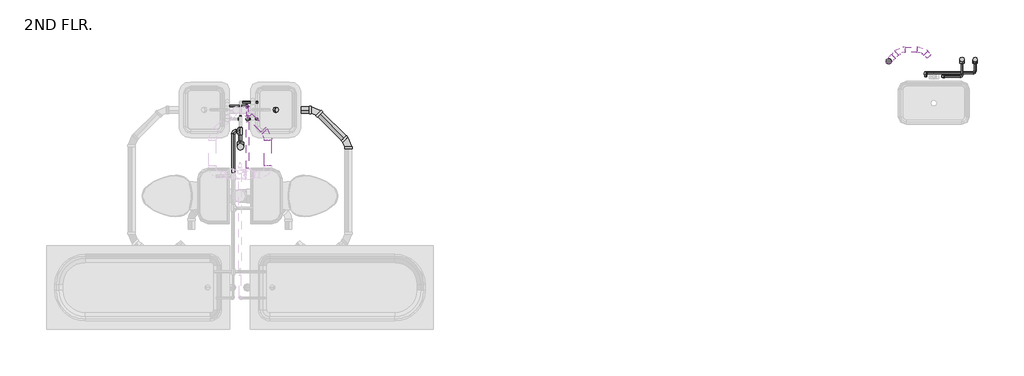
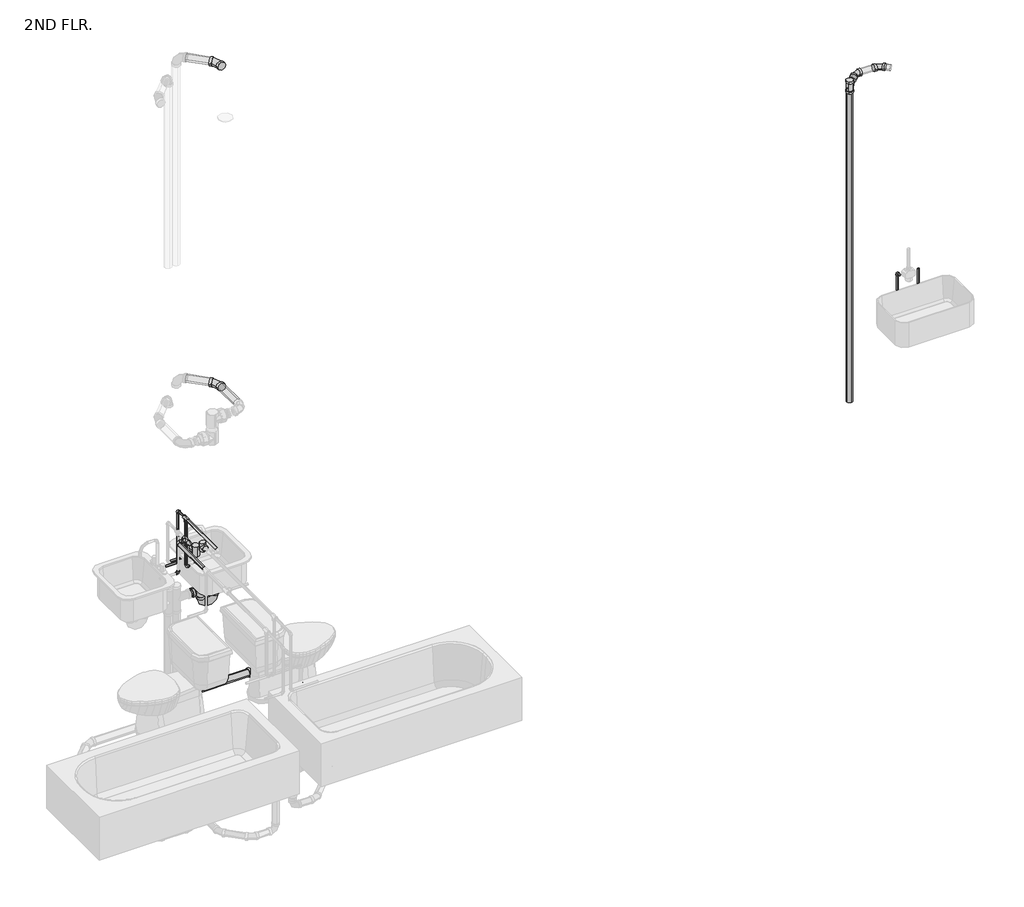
# One storey, part 15 of 15: 32 pipe fittings, 30 pipe segments.
"""IFC4 building model written with IfcOpenShell, lengths in millimetres."""

from ifc_helpers import new_model, si_unit, point, frame, frame_2d, origin, place, context, project, spatial, circle_curve, trimmed, segment, composite_curve, outline, extrude, transform, mapped, element, save
from components import bend_pvc_sch_40_dwv_standard_e59a9f3a, bend_pvc_sch_40_dwv_standard_9b1ab2e2, bend_pvc_sch_40_dwv_standard_f2f5988a, pipe_elbow_copper_k_aad62f2d, pipe_elbow_copper_k_a25a5501, pipe_elbow_copper_k_69a8f9be, pipe_tee_copper_k_36278b8a, pipe_tee_copper_k_7127fd44, pipe_tee_copper_k_ee363fbf, pipe_tee_copper_k_feafe2f1, pipe_tee_copper_k_60c871d1, pipe_transition_copper_k_859ff352, pipe_transition_copper_k_b4f16853, pipe_transition_copper_k_5cd7eb3f, pipe_transition_copper_k_4b29cc47, standard_73d07651, tee_sanitary_pvc_sch_40_dwv_standard_be04015c

model = new_model("IFC4")

# Units and contexts
model_context = context("Model", 3, world=origin())
ifc_project = project(units=[si_unit("LENGTHUNIT", "METRE", prefix="MILLI")], contexts=[model_context])

# Site, building, storey
site = spatial("IfcSite", under=ifc_project)
building = spatial("IfcBuilding", under=site)
storey = spatial("IfcBuildingStorey", under=building, Name="2ND FLR.", Elevation=2844.8)

# Pipe fittings
placement = place(None, origin())
bend_pvc_sch_40_dwv_standard_shape = bend_pvc_sch_40_dwv_standard_e59a9f3a(model_context)
element("IfcPipeFitting", 1, ObjectType="Bend - PVC - Sch 40 - DWV : Standard", at=placement, inside=storey, context=model_context, shape_type="MappedRepresentation", body=[
    mapped(bend_pvc_sch_40_dwv_standard_shape, transform((23184.9534568, 9017.693639, 5528.5325529), x_axis=(-0.7070684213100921, 0.7071067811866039, 0.007365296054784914), y_axis=(-0.7070684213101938, -0.7071067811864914, 0.007365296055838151), z_axis=(0.010416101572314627, 0.0, 0.9999457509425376))),
])
bend_pvc_sch_40_dwv_standard_2_shape = bend_pvc_sch_40_dwv_standard_9b1ab2e2(model_context)
element("IfcPipeFitting", 2, ObjectType="Bend - PVC - Sch 40 - DWV : Standard", at=placement, inside=storey, context=model_context, shape_type="MappedRepresentation", body=[
    mapped(bend_pvc_sch_40_dwv_standard_2_shape, transform((22984.0760534, 9017.6936646, 5530.6309152), x_axis=(-0.9999457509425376, 0.0, 0.010416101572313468), y_axis=(4.542044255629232e-05, -0.9999904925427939, 0.004360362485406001), z_axis=(0.010416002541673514, 0.004360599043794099, 0.9999362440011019))),
])
bend_pvc_sch_40_dwv_standard_3_shape = bend_pvc_sch_40_dwv_standard_f2f5988a(model_context)
element("IfcPipeFitting", 3, ObjectType="Bend - PVC - Sch 40 - DWV : Standard", at=placement, inside=storey, context=model_context, shape_type="MappedRepresentation", body=[
    mapped(bend_pvc_sch_40_dwv_standard_3_shape, transform((17633.9937605, 8465.2676718, 2448.8904025), x_axis=(-0.707106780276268, 0.7071067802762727, 5.0741035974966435e-05), y_axis=(-0.7071067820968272, -0.7071067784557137, -5.074103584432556e-05), z_axis=(0.0, -7.17586611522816e-05, 0.9999999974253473))),
])
element("IfcPipeFitting", 4, ObjectType="Bend - PVC - Sch 40 - DWV : Standard", at=placement, inside=storey, context=model_context, shape_type="MappedRepresentation", body=[
    mapped(bend_pvc_sch_40_dwv_standard_3_shape, transform((17932.9116861, 8166.3497461, 2448.8689525), x_axis=(0.0, 1.0, 0.0), y_axis=(-0.9999999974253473, 0.0, 7.175866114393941e-05), z_axis=(7.175866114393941e-05, 0.0, 0.9999999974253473))),
])
element("IfcPipeFitting", 5, ObjectType="Bend - PVC - Sch 40 - DWV : Standard", at=placement, inside=storey, context=model_context, shape_type="MappedRepresentation", body=[
    mapped(bend_pvc_sch_40_dwv_standard_3_shape, transform((17196.3084875, 8244.3974343, 8127.995709), x_axis=(0.0, 0.9999999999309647, -1.1750347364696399e-05), y_axis=(-0.9999999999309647, 1.3807066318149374e-10, 1.175034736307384e-05), z_axis=(1.1750347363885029e-05, 1.175034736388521e-05, 0.9999999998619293))),
])
element("IfcPipeFitting", 6, ObjectType="Bend - PVC - Sch 40 - DWV : Standard", at=placement, inside=storey, context=model_context, shape_type="MappedRepresentation", body=[
    mapped(bend_pvc_sch_40_dwv_standard_3_shape, transform((17196.3084875, 8244.3974343, 5283.195709), x_axis=(0.0, 0.9999999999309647, -1.1750347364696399e-05), y_axis=(-0.9999999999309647, 1.3807066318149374e-10, 1.175034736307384e-05), z_axis=(1.1750347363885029e-05, 1.175034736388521e-05, 0.9999999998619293))),
])
pipe_elbow_copper_k_shape = pipe_elbow_copper_k_aad62f2d(model_context)
element("IfcPipeFitting", 7, ObjectType="Pipe Elbow : Copper- K", at=placement, inside=storey, context=model_context, shape_type="MappedRepresentation", body=[
    mapped(pipe_elbow_copper_k_shape, transform((16945.8834875, 8383.3740436, 3606.8), x_axis=(0.0, 0.0, -1.0), y_axis=(-1.0, 0.0, 0.0), z_axis=(0.0, 1.0, 0.0))),
])
element("IfcPipeFitting", 8, ObjectType="Pipe Elbow : Copper- K", at=placement, inside=storey, context=model_context, shape_type="MappedRepresentation", body=[
    mapped(pipe_elbow_copper_k_shape, transform((17010.9709875, 8501.0968309, 4064.0), x_axis=(0.0, 1.0, 0.0), y_axis=(0.0, 0.0, -1.0), z_axis=(-1.0, 0.0, 0.0))),
])
element("IfcPipeFitting", 9, ObjectType="Pipe Elbow : Copper- K", at=placement, inside=storey, context=model_context, shape_type="MappedRepresentation", body=[
    mapped(pipe_elbow_copper_k_shape, transform((17010.9709875, 8501.0968309, 3606.8), x_axis=(0.0, 0.0, -1.0), y_axis=(-1.0, 0.0, 0.0), z_axis=(0.0, 1.0, 0.0))),
])
element("IfcPipeFitting", 10, ObjectType="Pipe Elbow : Copper- K", at=placement, inside=storey, context=model_context, shape_type="MappedRepresentation", body=[
    mapped(pipe_elbow_copper_k_shape, transform((17010.9709875, 8383.3740436, 3637.2601563), x_axis=(0.0, 0.0, -1.0), y_axis=(1.0, 0.0, 0.0), z_axis=(0.0, -1.0, 0.0))),
])
element("IfcPipeFitting", 11, ObjectType="Pipe Elbow : Copper- K", at=placement, inside=storey, context=model_context, shape_type="MappedRepresentation", body=[
    mapped(pipe_elbow_copper_k_shape, transform((23373.3163377, 8774.1278432, 3418.8796883), x_axis=(0.0, 0.0, -1.0), y_axis=(1.0, 0.0, 0.0), z_axis=(0.0, -1.0, 0.0))),
])
element("IfcPipeFitting", 12, ObjectType="Pipe Elbow : Copper- K", at=placement, inside=storey, context=model_context, shape_type="MappedRepresentation", body=[
    mapped(pipe_elbow_copper_k_shape, transform((23548.6084875, 8774.1278432, 3418.8796883), x_axis=(1.0, 0.0, 0.0), y_axis=(0.0, 1.0, 0.0), z_axis=(0.0, 0.0, 1.0))),
])
element("IfcPipeFitting", 13, ObjectType="Pipe Elbow : Copper- K", at=placement, inside=storey, context=model_context, shape_type="MappedRepresentation", body=[
    mapped(pipe_elbow_copper_k_shape, transform((23216.0641516, 8806.2157662, 3307.0601563), x_axis=(0.0, 0.0, -1.0), y_axis=(1.0, 0.0, 0.0), z_axis=(0.0, -1.0, 0.0))),
])
element("IfcPipeFitting", 14, ObjectType="Pipe Elbow : Copper- K", at=placement, inside=storey, context=model_context, shape_type="MappedRepresentation", body=[
    mapped(pipe_elbow_copper_k_shape, transform((23669.3410297, 8806.2157662, 3307.0601562), x_axis=(1.0, 0.0, 0.0), y_axis=(0.0, 1.0, 0.0), z_axis=(0.0, 0.0, 1.0))),
])
pipe_elbow_copper_k_2_shape = pipe_elbow_copper_k_a25a5501(model_context)
element("IfcPipeFitting", 15, ObjectType="Pipe Elbow : Copper- K", at=placement, inside=storey, context=model_context, shape_type="MappedRepresentation", body=[
    mapped(pipe_elbow_copper_k_2_shape, transform((16879.2084875, 8271.1092908, 3962.4), x_axis=(-1.0, 0.0, 0.0), y_axis=(0.0, -1.0, 0.0), z_axis=(0.0, 0.0, 1.0))),
])
pipe_elbow_copper_k_3_shape = pipe_elbow_copper_k_69a8f9be(model_context)
element("IfcPipeFitting", 16, ObjectType="Pipe Elbow : Copper- K", at=placement, inside=storey, context=model_context, shape_type="MappedRepresentation", body=[
    mapped(pipe_elbow_copper_k_3_shape, transform((23216.0641516, 8806.2157662, 3815.0601562), x_axis=(0.0, 0.0, 1.0), y_axis=(0.0, 1.0, 0.0), z_axis=(-1.0, 0.0, 0.0))),
])
pipe_tee_copper_k_shape = pipe_tee_copper_k_36278b8a(model_context)
element("IfcPipeFitting", 17, ObjectType="Pipe Tee : Copper- K", at=placement, inside=storey, context=model_context, shape_type="MappedRepresentation", body=[
    mapped(pipe_tee_copper_k_shape, transform((16945.8834875, 8129.4757881, 3962.4), x_axis=(0.0, 0.0, 1.0), y_axis=(0.0, -1.0, 0.0), z_axis=(1.0, 0.0, 0.0))),
])
pipe_tee_copper_k_2_shape = pipe_tee_copper_k_7127fd44(model_context)
element("IfcPipeFitting", 18, ObjectType="Pipe Tee : Copper- K", at=placement, inside=storey, context=model_context, shape_type="MappedRepresentation", body=[
    mapped(pipe_tee_copper_k_2_shape, transform((16941.9084875, 8021.1606631, 4064.0), x_axis=(0.0, 0.0, 1.0), y_axis=(-0.012699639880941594, 0.9999193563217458, 0.0), z_axis=(-0.9999193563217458, -0.012699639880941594, 0.0))),
])
pipe_tee_copper_k_3_shape = pipe_tee_copper_k_ee363fbf(model_context)
element("IfcPipeFitting", 19, ObjectType="Pipe Tee : Copper- K", at=placement, inside=storey, context=model_context, shape_type="MappedRepresentation", body=[
    mapped(pipe_tee_copper_k_3_shape, transform((17010.9709875, 8383.3740436, 4064.0), x_axis=(0.0, -1.0, 0.0), y_axis=(0.0, 0.0, 1.0), z_axis=(-1.0, 0.0, 0.0))),
])
pipe_tee_copper_k_4_shape = pipe_tee_copper_k_feafe2f1(model_context)
element("IfcPipeFitting", 20, ObjectType="Pipe Tee : Copper- K", at=placement, inside=storey, context=model_context, shape_type="MappedRepresentation", body=[
    mapped(pipe_tee_copper_k_4_shape, transform((16945.8834875, 8271.1092908, 3962.4), x_axis=(0.0, -1.0, 0.0), y_axis=(1.0, 0.0, 0.0), z_axis=(0.0, 0.0, 1.0))),
])
pipe_tee_copper_k_5_shape = pipe_tee_copper_k_60c871d1(model_context)
element("IfcPipeFitting", 21, ObjectType="Pipe Tee : Copper- K", at=placement, inside=storey, context=model_context, shape_type="MappedRepresentation", body=[
    mapped(pipe_tee_copper_k_5_shape, transform((23548.6084875, 8927.8175381, 3418.8796883), x_axis=(0.0, 0.0, 1.0), y_axis=(0.0, 1.0, 0.0), z_axis=(-1.0, 0.0, 0.0))),
])
element("IfcPipeFitting", 22, ObjectType="Pipe Tee : Copper- K", at=placement, inside=storey, context=model_context, shape_type="MappedRepresentation", body=[
    mapped(pipe_tee_copper_k_5_shape, transform((23669.3410297, 8927.8175381, 3307.0601562), x_axis=(0.0, 0.0, 1.0), y_axis=(0.0, 1.0, 0.0), z_axis=(-1.0, 0.0, 0.0))),
])
pipe_transition_copper_k_shape = pipe_transition_copper_k_859ff352(model_context)
element("IfcPipeFitting", 23, ObjectType="Pipe Transition : Copper- K", at=placement, inside=storey, context=model_context, shape_type="MappedRepresentation", body=[
    mapped(pipe_transition_copper_k_shape, transform((16945.8834875, 8383.3740436, 3935.4125), x_axis=(0.0, 0.0, -1.0), y_axis=(0.0, -1.0, 0.0), z_axis=(-1.0, 0.0, 0.0))),
])
element("IfcPipeFitting", 24, ObjectType="Pipe Transition : Copper- K", at=placement, inside=storey, context=model_context, shape_type="MappedRepresentation", body=[
    mapped(pipe_transition_copper_k_shape, transform((16945.8834875, 8410.3615436, 3962.4), x_axis=(0.0, 1.0, 0.0), y_axis=(-1.0, 0.0, 0.0), z_axis=(0.0, 0.0, 1.0))),
])
element("IfcPipeFitting", 25, ObjectType="Pipe Transition : Copper- K", at=placement, inside=storey, context=model_context, shape_type="MappedRepresentation", body=[
    mapped(pipe_transition_copper_k_shape, transform((17010.9709875, 8383.3740436, 4037.0125), x_axis=(0.0, 0.0, -1.0), y_axis=(0.0, 1.0, 0.0), z_axis=(1.0, 0.0, 0.0))),
])
element("IfcPipeFitting", 26, ObjectType="Pipe Transition : Copper- K", at=placement, inside=storey, context=model_context, shape_type="MappedRepresentation", body=[
    mapped(pipe_transition_copper_k_shape, transform((17010.9709875, 8410.3615436, 4064.0), x_axis=(0.0, 1.0, 0.0), y_axis=(-1.0, 0.0, 0.0), z_axis=(0.0, 0.0, 1.0))),
])
pipe_transition_copper_k_2_shape = pipe_transition_copper_k_b4f16853(model_context)
element("IfcPipeFitting", 27, ObjectType="Pipe Transition : Copper- K", at=placement, inside=storey, context=model_context, shape_type="MappedRepresentation", body=[
    mapped(pipe_transition_copper_k_2_shape, transform((16945.8834875, 8301.2717908, 3962.4), x_axis=(0.0, 1.0, 0.0), y_axis=(-1.0, 0.0, 0.0), z_axis=(0.0, 0.0, 1.0))),
])
pipe_transition_copper_k_3_shape = pipe_transition_copper_k_5cd7eb3f(model_context)
element("IfcPipeFitting", 28, ObjectType="Pipe Transition : Copper- K", at=placement, inside=storey, context=model_context, shape_type="MappedRepresentation", body=[
    mapped(pipe_transition_copper_k_3_shape, transform((16945.8834875, 8172.3382881, 3962.4), x_axis=(0.0, 1.0, 0.0), y_axis=(-1.0, 0.0, 0.0), z_axis=(0.0, 0.0, 1.0))),
])
pipe_transition_copper_k_4_shape = pipe_transition_copper_k_4b29cc47(model_context)
element("IfcPipeFitting", 29, ObjectType="Pipe Transition : Copper- K", at=placement, inside=storey, context=model_context, shape_type="MappedRepresentation", body=[
    mapped(pipe_transition_copper_k_4_shape, transform((23548.6084875, 8894.4800381, 3418.8796883), x_axis=(0.0, -1.0, 0.0), y_axis=(1.0, 0.0, 0.0), z_axis=(0.0, 0.0, 1.0))),
])
element("IfcPipeFitting", 30, ObjectType="Pipe Transition : Copper- K", at=placement, inside=storey, context=model_context, shape_type="MappedRepresentation", body=[
    mapped(pipe_transition_copper_k_4_shape, transform((23669.3410297, 8894.4800381, 3307.0601562), x_axis=(0.0, -1.0, 0.0), y_axis=(1.0, 0.0, 0.0), z_axis=(0.0, 0.0, 1.0))),
])
standard_shape = standard_73d07651(model_context)
element("IfcPipeFitting", 31, ObjectType="GES P TRAP PVC Sch 40 - DWV : Standard", at=placement, inside=storey, context=model_context, shape_type="MappedRepresentation", body=[
    mapped(standard_shape, transform((17295.2470106, 8465.2710421, 3322.6721683), x_axis=(0.0, 0.0, -1.0), y_axis=(-1.0, 0.0, 0.0), z_axis=(0.0, 1.0, 0.0))),
])
tee_sanitary_pvc_sch_40_dwv_standard_shape = tee_sanitary_pvc_sch_40_dwv_standard_be04015c(model_context)
element("IfcPipeFitting", 32, ObjectType="Tee Sanitary - PVC - Sch 40 - DWV : Standard", at=placement, inside=storey, context=model_context, shape_type="MappedRepresentation", body=[
    mapped(tee_sanitary_pvc_sch_40_dwv_standard_shape, transform((22877.6637012, 8912.1079616, 5532.1998234), x_axis=(0.0, 0.0, 1.0), y_axis=(-0.7098586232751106, -0.7043441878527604, 0.0), z_axis=(0.7043441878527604, -0.7098586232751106, 0.0))),
])

# Pipe segments
element("IfcPipeSegment", 33, ObjectType="Copper", at=placement, inside=storey, context=model_context, shape_type="SweptSolid", body=[
    extrude(outline(composite_curve([segment(trimmed(circle_curve(frame_2d((8536.03262, 3606.8)), 7.9375), [point((8528.09512, 3606.8))], [point((8536.03262, 3614.7375))], False, "CARTESIAN"), True, "CONTINUOUS"), segment(trimmed(circle_curve(frame_2d((8536.03262, 3606.8)), 7.9375), [point((8536.03262, 3614.7375))], [point((8543.97012, 3606.8))], False, "CARTESIAN"), True, "CONTINUOUS"), segment(trimmed(circle_curve(frame_2d((8536.03262, 3606.8)), 7.9375), [point((8543.97012, 3606.8))], [point((8536.03262, 3598.8625))], False, "CARTESIAN"), True, "CONTINUOUS"), segment(trimmed(circle_curve(frame_2d((8536.03262, 3606.8)), 7.9375), [point((8536.03262, 3598.8625))], [point((8528.09512, 3606.8))], False, "CARTESIAN"), True, "CONTINUOUS")], self_intersect=False)), frame((16963.3459875, 0.0, 0.0), z_axis=(1.0, 0.0, 0.0), x_axis=(0.0, 1.0, 0.0)), (0.0, 0.0, 1.0), 141.2875),
])
element("IfcPipeSegment", 34, ObjectType="Copper", at=placement, inside=storey, context=model_context, shape_type="SweptSolid", body=[
    extrude(outline(composite_curve([segment(trimmed(circle_curve(frame_2d((4064.0, 17010.9709875)), 7.9375), [point((4064.0, 17018.9084875))], [point((4071.9375, 17010.9709875))], False, "CARTESIAN"), True, "CONTINUOUS"), segment(trimmed(circle_curve(frame_2d((4064.0, 17010.9709875)), 7.9375), [point((4071.9375, 17010.9709875))], [point((4064.0, 17003.0334875))], False, "CARTESIAN"), True, "CONTINUOUS"), segment(trimmed(circle_curve(frame_2d((4064.0, 17010.9709875)), 7.9375), [point((4064.0, 17003.0334875))], [point((4056.0625, 17010.9709875))], False, "CARTESIAN"), True, "CONTINUOUS"), segment(trimmed(circle_curve(frame_2d((4064.0, 17010.9709875)), 7.9375), [point((4056.0625, 17010.9709875))], [point((4064.0, 17018.9084875))], False, "CARTESIAN"), True, "CONTINUOUS")], self_intersect=False)), frame((0.0, 8415.9177936, 0.0), z_axis=(0.0, 1.0, 0.0), x_axis=(0.0, 0.0, 1.0)), (0.0, 0.0, 1.0), 67.7165373),
])
element("IfcPipeSegment", 35, ObjectType="Copper", at=placement, inside=storey, context=model_context, shape_type="SweptSolid", body=[
    extrude(outline(composite_curve([segment(trimmed(circle_curve(frame_2d((8501.0968309, 3606.8)), 7.9375), [point((8509.0343309, 3606.8))], [point((8501.0968309, 3598.8625))], False, "CARTESIAN"), True, "CONTINUOUS"), segment(trimmed(circle_curve(frame_2d((8501.0968309, 3606.8)), 7.9375), [point((8501.0968309, 3598.8625))], [point((8493.1593309, 3606.8))], False, "CARTESIAN"), True, "CONTINUOUS"), segment(trimmed(circle_curve(frame_2d((8501.0968309, 3606.8)), 7.9375), [point((8493.1593309, 3606.8))], [point((8501.0968309, 3614.7375))], False, "CARTESIAN"), True, "CONTINUOUS"), segment(trimmed(circle_curve(frame_2d((8501.0968309, 3606.8)), 7.9375), [point((8501.0968309, 3614.7375))], [point((8509.0343309, 3606.8))], False, "CARTESIAN"), True, "CONTINUOUS")], self_intersect=False)), frame((16826.8209875, 0.0, 0.0), z_axis=(1.0, 0.0, 0.0), x_axis=(0.0, 1.0, 0.0)), (0.0, 0.0, 1.0), 166.6875),
])
element("IfcPipeSegment", 36, ObjectType="Copper", at=placement, inside=storey, context=model_context, shape_type="SweptSolid", body=[
    extrude(outline(composite_curve([segment(trimmed(circle_curve(frame_2d((17010.9709875, 8501.0968309)), 7.9375), [point((17018.9084875, 8501.0968309))], [point((17010.9709875, 8493.1593309))], False, "CARTESIAN"), True, "CONTINUOUS"), segment(trimmed(circle_curve(frame_2d((17010.9709875, 8501.0968309)), 7.9375), [point((17010.9709875, 8493.1593309))], [point((17003.0334875, 8501.0968309))], False, "CARTESIAN"), True, "CONTINUOUS"), segment(trimmed(circle_curve(frame_2d((17010.9709875, 8501.0968309)), 7.9375), [point((17003.0334875, 8501.0968309))], [point((17010.9709875, 8509.0343309))], False, "CARTESIAN"), True, "CONTINUOUS"), segment(trimmed(circle_curve(frame_2d((17010.9709875, 8501.0968309)), 7.9375), [point((17010.9709875, 8509.0343309))], [point((17018.9084875, 8501.0968309))], False, "CARTESIAN"), True, "CONTINUOUS")], self_intersect=False)), frame((0.0, 0.0, 3624.2625), z_axis=(0.0, 0.0, 1.0), x_axis=(1.0, 0.0, 0.0)), (0.0, 0.0, 1.0), 422.275),
])
element("IfcPipeSegment", 37, ObjectType="Copper", at=placement, inside=storey, context=model_context, shape_type="SweptSolid", body=[
    extrude(outline(composite_curve([segment(trimmed(circle_curve(frame_2d((8383.3740436, 3637.2601562)), 7.9375), [point((8375.4365436, 3637.2601562))], [point((8383.3740436, 3645.1976562))], False, "CARTESIAN"), True, "CONTINUOUS"), segment(trimmed(circle_curve(frame_2d((8383.3740436, 3637.2601562)), 7.9375), [point((8383.3740436, 3645.1976562))], [point((8391.3115436, 3637.2601562))], False, "CARTESIAN"), True, "CONTINUOUS"), segment(trimmed(circle_curve(frame_2d((8383.3740436, 3637.2601562)), 7.9375), [point((8391.3115436, 3637.2601562))], [point((8383.3740436, 3629.3226562))], False, "CARTESIAN"), True, "CONTINUOUS"), segment(trimmed(circle_curve(frame_2d((8383.3740436, 3637.2601562)), 7.9375), [point((8383.3740436, 3629.3226562))], [point((8375.4365436, 3637.2601562))], False, "CARTESIAN"), True, "CONTINUOUS")], self_intersect=False)), frame((17028.4334875, 0.0, 0.0), z_axis=(1.0, 0.0, 0.0), x_axis=(0.0, 1.0, 0.0)), (0.0, 0.0, 1.0), 76.2),
])
element("IfcPipeSegment", 38, ObjectType="Copper", at=placement, inside=storey, context=model_context, shape_type="SweptSolid", body=[
    extrude(outline(composite_curve([segment(trimmed(circle_curve(frame_2d((17010.9709875, 8383.3740436)), 7.9375), [point((17018.9084875, 8383.3740436))], [point((17010.9709875, 8375.4365436))], False, "CARTESIAN"), True, "CONTINUOUS"), segment(trimmed(circle_curve(frame_2d((17010.9709875, 8383.3740436)), 7.9375), [point((17010.9709875, 8375.4365436))], [point((17003.0334875, 8383.3740436))], False, "CARTESIAN"), True, "CONTINUOUS"), segment(trimmed(circle_curve(frame_2d((17010.9709875, 8383.3740436)), 7.9375), [point((17003.0334875, 8383.3740436))], [point((17010.9709875, 8391.3115436))], False, "CARTESIAN"), True, "CONTINUOUS"), segment(trimmed(circle_curve(frame_2d((17010.9709875, 8383.3740436)), 7.9375), [point((17010.9709875, 8391.3115436))], [point((17018.9084875, 8383.3740436))], False, "CARTESIAN"), True, "CONTINUOUS")], self_intersect=False)), frame((0.0, 0.0, 3654.7226562), z_axis=(0.0, 0.0, 1.0), x_axis=(1.0, 0.0, 0.0)), (0.0, 0.0, 1.0), 376.7335937),
])
element("IfcPipeSegment", 39, ObjectType="Copper", at=placement, inside=storey, context=model_context, shape_type="SweptSolid", body=[
    extrude(outline(composite_curve([segment(trimmed(circle_curve(frame_2d((4064.0, 17010.9709875)), 11.1125), [point((4064.0, 17022.0834875))], [point((4075.1125, 17010.9709875))], False, "CARTESIAN"), True, "CONTINUOUS"), segment(trimmed(circle_curve(frame_2d((4064.0, 17010.9709875)), 11.1125), [point((4075.1125, 17010.9709875))], [point((4064.0, 16999.8584875))], False, "CARTESIAN"), True, "CONTINUOUS"), segment(trimmed(circle_curve(frame_2d((4064.0, 17010.9709875)), 11.1125), [point((4064.0, 16999.8584875))], [point((4052.8875, 17010.9709875))], False, "CARTESIAN"), True, "CONTINUOUS"), segment(trimmed(circle_curve(frame_2d((4064.0, 17010.9709875)), 11.1125), [point((4052.8875, 17010.9709875))], [point((4064.0, 17022.0834875))], False, "CARTESIAN"), True, "CONTINUOUS")], self_intersect=False)), frame((0.0, 7931.1843309, 0.0), z_axis=(0.0, 1.0, 0.0), x_axis=(0.0, 0.0, 1.0)), (0.0, 0.0, 1.0), 425.2022127),
])
element("IfcPipeSegment", 40, ObjectType="Copper", at=placement, inside=storey, context=model_context, shape_type="SweptSolid", body=[
    extrude(outline(composite_curve([segment(trimmed(circle_curve(frame_2d((8271.1092908, 3962.4)), 14.2875), [point((8285.3967908, 3962.4))], [point((8271.1092908, 3948.1125))], False, "CARTESIAN"), True, "CONTINUOUS"), segment(trimmed(circle_curve(frame_2d((8271.1092908, 3962.4)), 14.2875), [point((8271.1092908, 3948.1125))], [point((8256.8217908, 3962.4))], False, "CARTESIAN"), True, "CONTINUOUS"), segment(trimmed(circle_curve(frame_2d((8271.1092908, 3962.4)), 14.2875), [point((8256.8217908, 3962.4))], [point((8271.1092908, 3976.6875))], False, "CARTESIAN"), True, "CONTINUOUS"), segment(trimmed(circle_curve(frame_2d((8271.1092908, 3962.4)), 14.2875), [point((8271.1092908, 3976.6875))], [point((8285.3967908, 3962.4))], False, "CARTESIAN"), True, "CONTINUOUS")], self_intersect=False)), frame((16903.0209875, 0.0, 0.0), z_axis=(1.0, 0.0, 0.0), x_axis=(0.0, 1.0, 0.0)), (0.0, 0.0, 1.0), 12.7),
])
element("IfcPipeSegment", 41, ObjectType="Copper", at=placement, inside=storey, context=model_context, shape_type="SweptSolid", body=[
    extrude(outline(composite_curve([segment(trimmed(circle_curve(frame_2d((3962.4, 16945.8834875)), 14.2875), [point((3962.4, 16931.5959875))], [point((3948.1125, 16945.8834875))], False, "CARTESIAN"), True, "CONTINUOUS"), segment(trimmed(circle_curve(frame_2d((3962.4, 16945.8834875)), 14.2875), [point((3948.1125, 16945.8834875))], [point((3962.4, 16960.1709875))], False, "CARTESIAN"), True, "CONTINUOUS"), segment(trimmed(circle_curve(frame_2d((3962.4, 16945.8834875)), 14.2875), [point((3962.4, 16960.1709875))], [point((3976.6875, 16945.8834875))], False, "CARTESIAN"), True, "CONTINUOUS"), segment(trimmed(circle_curve(frame_2d((3962.4, 16945.8834875)), 14.2875), [point((3976.6875, 16945.8834875))], [point((3962.4, 16931.5959875))], False, "CARTESIAN"), True, "CONTINUOUS")], self_intersect=False)), frame((0.0, 8185.8320381, 0.0), z_axis=(0.0, 1.0, 0.0), x_axis=(0.0, 0.0, 1.0)), (0.0, 0.0, 1.0), 55.1147527),
])
element("IfcPipeSegment", 42, ObjectType="Copper", at=placement, inside=storey, context=model_context, shape_type="SweptSolid", body=[
    extrude(outline(composite_curve([segment(trimmed(circle_curve(frame_2d((3962.4, 16879.2084875)), 14.2875), [point((3962.4, 16864.9209875))], [point((3948.1125, 16879.2084875))], False, "CARTESIAN"), True, "CONTINUOUS"), segment(trimmed(circle_curve(frame_2d((3962.4, 16879.2084875)), 14.2875), [point((3948.1125, 16879.2084875))], [point((3962.4, 16893.4959875))], False, "CARTESIAN"), True, "CONTINUOUS"), segment(trimmed(circle_curve(frame_2d((3962.4, 16879.2084875)), 14.2875), [point((3962.4, 16893.4959875))], [point((3976.6875, 16879.2084875))], False, "CARTESIAN"), True, "CONTINUOUS"), segment(trimmed(circle_curve(frame_2d((3962.4, 16879.2084875)), 14.2875), [point((3976.6875, 16879.2084875))], [point((3962.4, 16864.9209875))], False, "CARTESIAN"), True, "CONTINUOUS")], self_intersect=False)), frame((0.0, 7889.5153944, 0.0), z_axis=(0.0, 1.0, 0.0), x_axis=(0.0, 0.0, 1.0)), (0.0, 0.0, 1.0), 357.7813964),
])
element("IfcPipeSegment", 43, ObjectType="Copper", at=placement, inside=storey, context=model_context, shape_type="SweptSolid", body=[
    extrude(outline(composite_curve([segment(trimmed(circle_curve(frame_2d((3815.0601563, 23216.0641516)), 7.9375), [point((3815.0601563, 23208.1266516))], [point((3807.1226563, 23216.0641516))], False, "CARTESIAN"), True, "CONTINUOUS"), segment(trimmed(circle_curve(frame_2d((3815.0601563, 23216.0641516)), 7.9375), [point((3807.1226563, 23216.0641516))], [point((3815.0601563, 23224.0016516))], False, "CARTESIAN"), True, "CONTINUOUS"), segment(trimmed(circle_curve(frame_2d((3815.0601563, 23216.0641516)), 7.9375), [point((3815.0601563, 23224.0016516))], [point((3822.9976563, 23216.0641516))], False, "CARTESIAN"), True, "CONTINUOUS"), segment(trimmed(circle_curve(frame_2d((3815.0601563, 23216.0641516)), 7.9375), [point((3822.9976563, 23216.0641516))], [point((3815.0601563, 23208.1266516))], False, "CARTESIAN"), True, "CONTINUOUS")], self_intersect=False)), frame((0.0, 8771.4354504, 0.0), z_axis=(0.0, 1.0, 0.0), x_axis=(0.0, 0.0, 1.0)), (0.0, 0.0, 1.0), 17.3178158),
])
element("IfcPipeSegment", 44, ObjectType="Copper", at=placement, inside=storey, context=model_context, shape_type="SweptSolid", body=[
    extrude(outline(composite_curve([segment(trimmed(circle_curve(frame_2d((8774.1278432, 3418.8796883)), 7.9375), [point((8766.1903432, 3418.8796883))], [point((8774.1278432, 3426.8171883))], False, "CARTESIAN"), True, "CONTINUOUS"), segment(trimmed(circle_curve(frame_2d((8774.1278432, 3418.8796883)), 7.9375), [point((8774.1278432, 3426.8171883))], [point((8782.0653432, 3418.8796883))], False, "CARTESIAN"), True, "CONTINUOUS"), segment(trimmed(circle_curve(frame_2d((8774.1278432, 3418.8796883)), 7.9375), [point((8782.0653432, 3418.8796883))], [point((8774.1278432, 3410.9421883))], False, "CARTESIAN"), True, "CONTINUOUS"), segment(trimmed(circle_curve(frame_2d((8774.1278432, 3418.8796883)), 7.9375), [point((8774.1278432, 3410.9421883))], [point((8766.1903432, 3418.8796883))], False, "CARTESIAN"), True, "CONTINUOUS")], self_intersect=False)), frame((23390.7788377, 0.0, 0.0), z_axis=(1.0, 0.0, 0.0), x_axis=(0.0, 1.0, 0.0)), (0.0, 0.0, 1.0), 140.3671497),
])
element("IfcPipeSegment", 45, ObjectType="Copper", at=placement, inside=storey, context=model_context, shape_type="SweptSolid", body=[
    extrude(outline(composite_curve([segment(trimmed(circle_curve(frame_2d((23373.3163377, 8774.1278432)), 7.9375), [point((23365.3788377, 8774.1278432))], [point((23373.3163377, 8782.0653432))], False, "CARTESIAN"), True, "CONTINUOUS"), segment(trimmed(circle_curve(frame_2d((23373.3163377, 8774.1278432)), 7.9375), [point((23373.3163377, 8782.0653432))], [point((23381.2538377, 8774.1278432))], False, "CARTESIAN"), True, "CONTINUOUS"), segment(trimmed(circle_curve(frame_2d((23373.3163377, 8774.1278432)), 7.9375), [point((23381.2538377, 8774.1278432))], [point((23373.3163377, 8766.1903432))], False, "CARTESIAN"), True, "CONTINUOUS"), segment(trimmed(circle_curve(frame_2d((23373.3163377, 8774.1278432)), 7.9375), [point((23373.3163377, 8766.1903432))], [point((23365.3788377, 8774.1278432))], False, "CARTESIAN"), True, "CONTINUOUS")], self_intersect=False)), frame((0.0, 0.0, 3436.3421883), z_axis=(0.0, 0.0, 1.0), x_axis=(1.0, 0.0, 0.0)), (0.0, 0.0, 1.0), 378.7179679),
])
element("IfcPipeSegment", 46, ObjectType="Copper", at=placement, inside=storey, context=model_context, shape_type="SweptSolid", body=[
    extrude(outline(composite_curve([segment(trimmed(circle_curve(frame_2d((8806.2157662, 3307.0601563)), 7.9375), [point((8798.2782662, 3307.0601563))], [point((8806.2157662, 3314.9976563))], False, "CARTESIAN"), True, "CONTINUOUS"), segment(trimmed(circle_curve(frame_2d((8806.2157662, 3307.0601563)), 7.9375), [point((8806.2157662, 3314.9976563))], [point((8814.1532662, 3307.0601563))], False, "CARTESIAN"), True, "CONTINUOUS"), segment(trimmed(circle_curve(frame_2d((8806.2157662, 3307.0601563)), 7.9375), [point((8814.1532662, 3307.0601563))], [point((8806.2157662, 3299.1226563))], False, "CARTESIAN"), True, "CONTINUOUS"), segment(trimmed(circle_curve(frame_2d((8806.2157662, 3307.0601563)), 7.9375), [point((8806.2157662, 3299.1226563))], [point((8798.2782662, 3307.0601563))], False, "CARTESIAN"), True, "CONTINUOUS")], self_intersect=False)), frame((23233.5266516, 0.0, 0.0), z_axis=(1.0, 0.0, 0.0), x_axis=(0.0, 1.0, 0.0)), (0.0, 0.0, 1.0), 418.351878),
])
element("IfcPipeSegment", 47, ObjectType="Copper", at=placement, inside=storey, context=model_context, shape_type="SweptSolid", body=[
    extrude(outline(composite_curve([segment(trimmed(circle_curve(frame_2d((23216.0641516, 8806.2157662)), 7.9375), [point((23208.1266516, 8806.2157662))], [point((23216.0641516, 8814.1532662))], False, "CARTESIAN"), True, "CONTINUOUS"), segment(trimmed(circle_curve(frame_2d((23216.0641516, 8806.2157662)), 7.9375), [point((23216.0641516, 8814.1532662))], [point((23224.0016516, 8806.2157662))], False, "CARTESIAN"), True, "CONTINUOUS"), segment(trimmed(circle_curve(frame_2d((23216.0641516, 8806.2157662)), 7.9375), [point((23224.0016516, 8806.2157662))], [point((23216.0641516, 8798.2782662))], False, "CARTESIAN"), True, "CONTINUOUS"), segment(trimmed(circle_curve(frame_2d((23216.0641516, 8806.2157662)), 7.9375), [point((23216.0641516, 8798.2782662))], [point((23208.1266516, 8806.2157662))], False, "CARTESIAN"), True, "CONTINUOUS")], self_intersect=False)), frame((0.0, 0.0, 3324.5226563), z_axis=(0.0, 0.0, 1.0), x_axis=(1.0, 0.0, 0.0)), (0.0, 0.0, 1.0), 473.075),
])
element("IfcPipeSegment", 48, ObjectType="Copper", at=placement, inside=storey, context=model_context, shape_type="SweptSolid", body=[
    extrude(outline(composite_curve([segment(trimmed(circle_curve(frame_2d((3418.8796883, 23548.6084875)), 7.9375), [point((3418.8796883, 23540.6709875))], [point((3410.9421883, 23548.6084875))], False, "CARTESIAN"), True, "CONTINUOUS"), segment(trimmed(circle_curve(frame_2d((3418.8796883, 23548.6084875)), 7.9375), [point((3410.9421883, 23548.6084875))], [point((3418.8796883, 23556.5459875))], False, "CARTESIAN"), True, "CONTINUOUS"), segment(trimmed(circle_curve(frame_2d((3418.8796883, 23548.6084875)), 7.9375), [point((3418.8796883, 23556.5459875))], [point((3426.8171883, 23548.6084875))], False, "CARTESIAN"), True, "CONTINUOUS"), segment(trimmed(circle_curve(frame_2d((3418.8796883, 23548.6084875)), 7.9375), [point((3426.8171883, 23548.6084875))], [point((3418.8796883, 23540.6709875))], False, "CARTESIAN"), True, "CONTINUOUS")], self_intersect=False)), frame((0.0, 8791.5903432, 0.0), z_axis=(0.0, 1.0, 0.0), x_axis=(0.0, 0.0, 1.0)), (0.0, 0.0, 1.0), 94.1584448),
])
element("IfcPipeSegment", 49, ObjectType="Copper", at=placement, inside=storey, context=model_context, shape_type="SweptSolid", body=[
    extrude(outline(composite_curve([segment(trimmed(circle_curve(frame_2d((3307.0601563, 23669.3410297)), 7.9375), [point((3307.0601563, 23661.4035297))], [point((3299.1226563, 23669.3410297))], False, "CARTESIAN"), True, "CONTINUOUS"), segment(trimmed(circle_curve(frame_2d((3307.0601563, 23669.3410297)), 7.9375), [point((3299.1226563, 23669.3410297))], [point((3307.0601563, 23677.2785297))], False, "CARTESIAN"), True, "CONTINUOUS"), segment(trimmed(circle_curve(frame_2d((3307.0601563, 23669.3410297)), 7.9375), [point((3307.0601563, 23677.2785297))], [point((3314.9976563, 23669.3410297))], False, "CARTESIAN"), True, "CONTINUOUS"), segment(trimmed(circle_curve(frame_2d((3307.0601563, 23669.3410297)), 7.9375), [point((3314.9976563, 23669.3410297))], [point((3307.0601563, 23661.4035297))], False, "CARTESIAN"), True, "CONTINUOUS")], self_intersect=False)), frame((0.0, 8823.6782662, 0.0), z_axis=(0.0, 1.0, 0.0), x_axis=(0.0, 0.0, 1.0)), (0.0, 0.0, 1.0), 62.0705218),
])
element("IfcPipeSegment", 50, ObjectType="PVC - SAN/STORM", at=placement, inside=storey, context=model_context, shape_type="SweptSolid", body=[
    extrude(outline(composite_curve([segment(trimmed(circle_curve(frame_2d((0.0, 24.13)), 24.13), [point((24.1293456, 24.3077101))], [point((0.1777101, 0.0006544))], False, "CARTESIAN"), True, "CONTINUOUS"), segment(trimmed(circle_curve(frame_2d((0.0, 24.13)), 24.13), [point((0.1777101, 0.0006544))], [point((-24.1293456, 23.9522899))], False, "CARTESIAN"), True, "CONTINUOUS"), segment(trimmed(circle_curve(frame_2d((0.0, 24.13)), 24.13), [point((-24.1293456, 23.9522899))], [point((-0.1777101, 48.2593456))], False, "CARTESIAN"), True, "CONTINUOUS"), segment(trimmed(circle_curve(frame_2d((0.0, 24.13)), 24.13), [point((-0.1777101, 48.2593456))], [point((24.1293456, 24.3077101))], False, "CARTESIAN"), True, "CONTINUOUS")], self_intersect=False)), frame((23247.3663086, 8955.0260743, 5552.0111102), z_axis=(-0.7070684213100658, 0.7071067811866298, 0.007365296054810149), x_axis=(0.707145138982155, 0.7070300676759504, 0.007364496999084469)), (0.0, 0.0, 1.0), 42.2450899),
])
element("IfcPipeSegment", 51, ObjectType="PVC - SAN/STORM", at=placement, inside=storey, context=model_context, shape_type="SweptSolid", body=[
    extrude(outline(composite_curve([segment(trimmed(circle_curve(frame_2d((0.0, 24.13)), 24.13), [point((0.0005438, 48.26))], [point((24.13, 24.1294562))], False, "CARTESIAN"), True, "CONTINUOUS"), segment(trimmed(circle_curve(frame_2d((0.0, 24.13)), 24.13), [point((24.13, 24.1294562))], [point((-0.0005438, 0.0))], False, "CARTESIAN"), True, "CONTINUOUS"), segment(trimmed(circle_curve(frame_2d((0.0, 24.13)), 24.13), [point((-0.0005438, 0.0))], [point((-24.13, 24.1305437))], False, "CARTESIAN"), True, "CONTINUOUS"), segment(trimmed(circle_curve(frame_2d((0.0, 24.13)), 24.13), [point((-24.13, 24.1305437))], [point((0.0005438, 48.26))], False, "CARTESIAN"), True, "CONTINUOUS")], self_intersect=False)), frame((23138.9311537, 8993.563639, 5529.0124957), z_axis=(-0.9999451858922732, 2.359422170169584e-07, 0.010470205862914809), x_axis=(0.010470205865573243, 2.253339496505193e-05, 0.9999451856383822)), (0.0, 0.0, 1.0), 108.8387629),
])
element("IfcPipeSegment", 52, ObjectType="PVC - SAN/STORM", at=placement, inside=storey, context=model_context, shape_type="SweptSolid", body=[
    extrude(outline(composite_curve([segment(trimmed(circle_curve(frame_2d((0.0, 24.13)), 24.13), [point((-24.1286579, 24.3844918))], [point((0.2544918, 48.258658))], False, "CARTESIAN"), True, "CONTINUOUS"), segment(trimmed(circle_curve(frame_2d((0.0, 24.13)), 24.13), [point((0.2544918, 48.258658))], [point((24.128658, 23.8755083))], False, "CARTESIAN"), True, "CONTINUOUS"), segment(trimmed(circle_curve(frame_2d((0.0, 24.13)), 24.13), [point((24.128658, 23.8755083))], [point((-0.2544917, 0.0013421))], False, "CARTESIAN"), True, "CONTINUOUS"), segment(trimmed(circle_curve(frame_2d((0.0, 24.13)), 24.13), [point((-0.2544917, 0.0013421))], [point((-24.1286579, 24.3844918))], False, "CARTESIAN"), True, "CONTINUOUS")], self_intersect=False)), frame((22951.4067414, 8984.9196291, 5506.985244), z_axis=(-0.7098197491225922, -0.7043056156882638, 0.010465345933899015), x_axis=(0.7043833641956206, -0.7097414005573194, 0.010546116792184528)), (0.0, 0.0, 1.0), 41.9900119),
])
element("IfcPipeSegment", 53, ObjectType="PVC - SAN/STORM", at=placement, inside=storey, context=model_context, shape_type="SweptSolid", body=[
    extrude(outline(composite_curve([segment(trimmed(circle_curve(frame_2d((22877.6637012, 8912.1079616)), 24.13), [point((22901.7937012, 8912.1079616))], [point((22877.6637012, 8887.9779616))], False, "CARTESIAN"), True, "CONTINUOUS"), segment(trimmed(circle_curve(frame_2d((22877.6637012, 8912.1079616)), 24.13), [point((22877.6637012, 8887.9779616))], [point((22853.5337012, 8912.1079616))], False, "CARTESIAN"), True, "CONTINUOUS"), segment(trimmed(circle_curve(frame_2d((22877.6637012, 8912.1079616)), 24.13), [point((22853.5337012, 8912.1079616))], [point((22877.6637012, 8936.2379616))], False, "CARTESIAN"), True, "CONTINUOUS"), segment(trimmed(circle_curve(frame_2d((22877.6637012, 8912.1079616)), 24.13), [point((22877.6637012, 8936.2379616))], [point((22901.7937012, 8912.1079616))], False, "CARTESIAN"), True, "CONTINUOUS")], self_intersect=False)), frame((0.0, 0.0, 2732.6657899), z_axis=(0.0, 0.0, 1.0), x_axis=(1.0, 0.0, 0.0)), (0.0, 0.0, 1.0), 2737.6342335),
])
element("IfcPipeSegment", 54, ObjectType="PVC - SAN/STORM", at=placement, inside=storey, context=model_context, shape_type="SweptSolid", body=[
    extrude(outline(composite_curve([segment(trimmed(circle_curve(frame_2d((17295.2470106, 8465.2710421)), 30.1625), [point((17265.0845106, 8465.2710421))], [point((17295.2470106, 8495.4335421))], False, "CARTESIAN"), True, "CONTINUOUS"), segment(trimmed(circle_curve(frame_2d((17295.2470106, 8465.2710421)), 30.1625), [point((17295.2470106, 8495.4335421))], [point((17325.4095106, 8465.2710421))], False, "CARTESIAN"), True, "CONTINUOUS"), segment(trimmed(circle_curve(frame_2d((17295.2470106, 8465.2710421)), 30.1625), [point((17325.4095106, 8465.2710421))], [point((17295.2470106, 8435.1085421))], False, "CARTESIAN"), True, "CONTINUOUS"), segment(trimmed(circle_curve(frame_2d((17295.2470106, 8465.2710421)), 30.1625), [point((17295.2470106, 8435.1085421))], [point((17265.0845106, 8465.2710421))], False, "CARTESIAN"), True, "CONTINUOUS")], self_intersect=False)), frame((0.0, 0.0, 3275.0471683), z_axis=(0.0, 0.0, 1.0), x_axis=(1.0, 0.0, 0.0)), (0.0, 0.0, 1.0), 143.9539175),
])
element("IfcPipeSegment", 55, ObjectType="PVC - SAN/STORM", at=placement, inside=storey, context=model_context, shape_type="SweptSolid", body=[
    extrude(outline(composite_curve([segment(trimmed(circle_curve(frame_2d((8465.2710421, 3322.6721683)), 30.1625), [point((8495.4335421, 3322.6721683))], [point((8465.2710421, 3292.5096683))], False, "CARTESIAN"), True, "CONTINUOUS"), segment(trimmed(circle_curve(frame_2d((8465.2710421, 3322.6721683)), 30.1625), [point((8465.2710421, 3292.5096683))], [point((8435.1085421, 3322.6721683))], False, "CARTESIAN"), True, "CONTINUOUS"), segment(trimmed(circle_curve(frame_2d((8465.2710421, 3322.6721683)), 30.1625), [point((8435.1085421, 3322.6721683))], [point((8465.2710421, 3352.8346683))], False, "CARTESIAN"), True, "CONTINUOUS"), segment(trimmed(circle_curve(frame_2d((8465.2710421, 3322.6721683)), 30.1625), [point((8465.2710421, 3352.8346683))], [point((8495.4335421, 3322.6721683))], False, "CARTESIAN"), True, "CONTINUOUS")], self_intersect=False)), frame((17088.6830071, 0.0, 0.0), z_axis=(1.0, 0.0, 0.0), x_axis=(0.0, 1.0, 0.0)), (0.0, 0.0, 1.0), 14.4765036),
])
element("IfcPipeSegment", 56, ObjectType="PVC - SAN/STORM", at=placement, inside=storey, context=model_context, shape_type="SweptSolid", body=[
    extrude(outline(composite_curve([segment(trimmed(circle_curve(frame_2d((17295.2470106, 8465.2710421)), 30.1625), [point((17265.0845106, 8465.2710421))], [point((17295.2470106, 8495.4335421))], False, "CARTESIAN"), True, "CONTINUOUS"), segment(trimmed(circle_curve(frame_2d((17295.2470106, 8465.2710421)), 30.1625), [point((17295.2470106, 8495.4335421))], [point((17325.4095106, 8465.2710421))], False, "CARTESIAN"), True, "CONTINUOUS"), segment(trimmed(circle_curve(frame_2d((17295.2470106, 8465.2710421)), 30.1625), [point((17325.4095106, 8465.2710421))], [point((17295.2470106, 8435.1085421))], False, "CARTESIAN"), True, "CONTINUOUS"), segment(trimmed(circle_curve(frame_2d((17295.2470106, 8465.2710421)), 30.1625), [point((17295.2470106, 8435.1085421))], [point((17265.0845106, 8465.2710421))], False, "CARTESIAN"), True, "CONTINUOUS")], self_intersect=False)), frame((0.0, 0.0, 3275.0471683), z_axis=(0.0, 0.0, 1.0), x_axis=(1.0, 0.0, 0.0)), (0.0, 0.0, 1.0), 143.9539175),
])
element("IfcPipeSegment", 57, ObjectType="PVC - SAN/STORM", at=placement, inside=storey, context=model_context, shape_type="SweptSolid", body=[
    extrude(outline(composite_curve([segment(trimmed(circle_curve(frame_2d((8465.2676718, 2448.8904025)), 30.1625), [point((8435.1051718, 2448.8904025))], [point((8465.2676718, 2479.0529025))], False, "CARTESIAN"), True, "CONTINUOUS"), segment(trimmed(circle_curve(frame_2d((8465.2676718, 2448.8904025)), 30.1625), [point((8465.2676718, 2479.0529025))], [point((8495.4301718, 2448.8904025))], False, "CARTESIAN"), True, "CONTINUOUS"), segment(trimmed(circle_curve(frame_2d((8465.2676718, 2448.8904025)), 30.1625), [point((8495.4301718, 2448.8904025))], [point((8465.2676718, 2418.7279025))], False, "CARTESIAN"), True, "CONTINUOUS"), segment(trimmed(circle_curve(frame_2d((8465.2676718, 2448.8904025)), 30.1625), [point((8465.2676718, 2418.7279025))], [point((8435.1051718, 2448.8904025))], False, "CARTESIAN"), True, "CONTINUOUS")], self_intersect=False)), frame((17053.2349258, 0.0, 0.0), z_axis=(1.0, 0.0, 0.0), x_axis=(0.0, 1.0, 0.0)), (0.0, 0.0, 1.0), 523.6088347),
])
element("IfcPipeSegment", 58, ObjectType="PVC - SAN/STORM", at=placement, inside=storey, context=model_context, shape_type="SweptSolid", body=[
    extrude(outline(composite_curve([segment(trimmed(circle_curve(frame_2d((-1e-07, -30.1625)), 30.1625), [point((-30.1625, -30.1640305))], [point((-0.0015305, 0.0))], False, "CARTESIAN"), True, "CONTINUOUS"), segment(trimmed(circle_curve(frame_2d((-1e-07, -30.1625)), 30.1625), [point((-0.0015305, 0.0))], [point((30.1624999, -30.1609695))], False, "CARTESIAN"), True, "CONTINUOUS"), segment(trimmed(circle_curve(frame_2d((-1e-07, -30.1625)), 30.1625), [point((30.1624999, -30.1609695))], [point((0.0015304, -60.3249999))], False, "CARTESIAN"), True, "CONTINUOUS"), segment(trimmed(circle_curve(frame_2d((-1e-07, -30.1625)), 30.1625), [point((0.0015304, -60.3249999))], [point((-30.1625, -30.1640305))], False, "CARTESIAN"), True, "CONTINUOUS")], self_intersect=False)), frame((17892.5005336, 8206.7630631, 2418.7093525), z_axis=(-0.7071067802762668, 0.7071067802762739, 5.074103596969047e-05), x_axis=(0.7071067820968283, 0.7071067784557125, 5.074103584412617e-05)), (0.0, 0.0, 1.0), 308.433785),
])
element("IfcPipeSegment", 59, ObjectType="PVC - SAN/STORM", at=placement, inside=storey, context=model_context, shape_type="SweptSolid", body=[
    extrude(outline(composite_curve([segment(trimmed(circle_curve(frame_2d((5283.1963805, 17196.3084875)), 30.1625), [point((5283.1963805, 17166.1459875))], [point((5253.0338805, 17196.3084875))], False, "CARTESIAN"), True, "CONTINUOUS"), segment(trimmed(circle_curve(frame_2d((5283.1963805, 17196.3084875)), 30.1625), [point((5253.0338805, 17196.3084875))], [point((5283.1963805, 17226.4709875))], False, "CARTESIAN"), True, "CONTINUOUS"), segment(trimmed(circle_curve(frame_2d((5283.1963805, 17196.3084875)), 30.1625), [point((5283.1963805, 17226.4709875))], [point((5313.3588805, 17196.3084875))], False, "CARTESIAN"), True, "CONTINUOUS"), segment(trimmed(circle_curve(frame_2d((5283.1963805, 17196.3084875)), 30.1625), [point((5313.3588805, 17196.3084875))], [point((5283.1963805, 17166.1459875))], False, "CARTESIAN"), True, "CONTINUOUS")], self_intersect=False)), frame((0.0, 7954.6889644, 0.0), z_axis=(0.0, 1.0, 0.0), x_axis=(0.0, 0.0, 1.0)), (0.0, 0.0, 1.0), 232.5584699),
])
element("IfcPipeSegment", 60, ObjectType="PVC - SAN/STORM", at=placement, inside=storey, context=model_context, shape_type="SweptSolid", body=[
    extrude(outline(composite_curve([segment(trimmed(circle_curve(frame_2d((0.0, -30.1625)), 30.1625), [point((-30.1625, -30.1625))], [point((0.0, 0.0))], False, "CARTESIAN"), True, "CONTINUOUS"), segment(trimmed(circle_curve(frame_2d((0.0, -30.1625)), 30.1625), [point((0.0, 0.0))], [point((30.1625, -30.1625))], False, "CARTESIAN"), True, "CONTINUOUS"), segment(trimmed(circle_curve(frame_2d((0.0, -30.1625)), 30.1625), [point((30.1625, -30.1625))], [point((0.0, -60.325))], False, "CARTESIAN"), True, "CONTINUOUS"), segment(trimmed(circle_curve(frame_2d((0.0, -30.1625)), 30.1625), [point((0.0, -60.325))], [point((-30.1625, -30.1625))], False, "CARTESIAN"), True, "CONTINUOUS")], self_intersect=False)), frame((17155.8973349, 8284.8085869, 8097.833209), z_axis=(-0.7071067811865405, 0.7071067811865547, 0.0), x_axis=(0.7071067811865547, 0.7071067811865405, 0.0)), (0.0, 0.0, 1.0), 177.4123605),
])
element("IfcPipeSegment", 61, ObjectType="PVC - SAN/STORM", at=placement, inside=storey, context=model_context, shape_type="SweptSolid", body=[
    extrude(outline(composite_curve([segment(trimmed(circle_curve(frame_2d((0.0, -30.1625)), 30.1625), [point((-30.1625, -30.1625))], [point((0.0, 0.0))], False, "CARTESIAN"), True, "CONTINUOUS"), segment(trimmed(circle_curve(frame_2d((0.0, -30.1625)), 30.1625), [point((0.0, 0.0))], [point((30.1625, -30.1625))], False, "CARTESIAN"), True, "CONTINUOUS"), segment(trimmed(circle_curve(frame_2d((0.0, -30.1625)), 30.1625), [point((30.1625, -30.1625))], [point((0.0, -60.325))], False, "CARTESIAN"), True, "CONTINUOUS"), segment(trimmed(circle_curve(frame_2d((0.0, -30.1625)), 30.1625), [point((0.0, -60.325))], [point((-30.1625, -30.1625))], False, "CARTESIAN"), True, "CONTINUOUS")], self_intersect=False)), frame((17155.8973349, 8284.8085869, 5253.033209), z_axis=(-0.7071067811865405, 0.7071067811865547, 0.0), x_axis=(0.7071067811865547, 0.7071067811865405, 0.0)), (0.0, 0.0, 1.0), 177.4123605),
])
element("IfcPipeSegment", 62, ObjectType="PVC - SAN/STORM", at=placement, inside=storey, context=model_context, shape_type="SweptSolid", body=[
    extrude(outline(composite_curve([segment(trimmed(circle_curve(frame_2d((0.0, -30.1625)), 30.1625), [point((0.0, 0.0))], [point((30.1625, -30.1625))], False, "CARTESIAN"), True, "CONTINUOUS"), segment(trimmed(circle_curve(frame_2d((0.0, -30.1625)), 30.1625), [point((30.1625, -30.1625))], [point((0.0, -60.325))], False, "CARTESIAN"), True, "CONTINUOUS"), segment(trimmed(circle_curve(frame_2d((0.0, -30.1625)), 30.1625), [point((0.0, -60.325))], [point((-30.1625, -30.1625))], False, "CARTESIAN"), True, "CONTINUOUS"), segment(trimmed(circle_curve(frame_2d((0.0, -30.1625)), 30.1625), [point((-30.1625, -30.1625))], [point((0.0, 0.0))], False, "CARTESIAN"), True, "CONTINUOUS")], self_intersect=False)), frame((17166.1459875, 7954.6889644, 5283.1963805), z_axis=(1.037541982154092e-11, 1.0, 0.0), x_axis=(0.0, 0.0, -1.0)), (0.0, 0.0, 1.0), 232.5584699),
])

save(model, "model.ifc")
